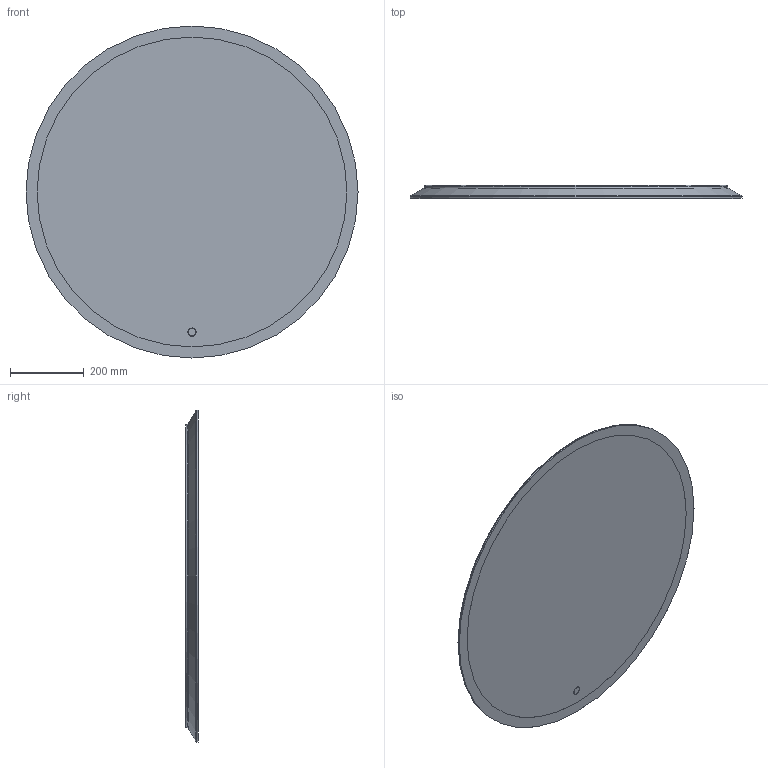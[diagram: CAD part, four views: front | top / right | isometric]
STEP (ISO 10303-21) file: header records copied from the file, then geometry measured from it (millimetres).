
FILE_DESCRIPTION(/* description */ (''),/* implementation_level */ '2;1');
FILE_NAME(/* name */ 'C:\Planerdaten\Export PLA\502.799.00.1\stp\502799.stp',/* time_stamp */ '2022-12-02T15:08:14+01:00',/* author */ ('JANAN'),/* organization */ (''),/* preprocessor_version */ 'ST-DEVELOPER v18.1',/* originating_system */ 'Autodesk Inventor 2021',/* authorisation */ '');
FILE_SCHEMA (('AUTOMOTIVE_DESIGN { 1 0 10303 214 3 1 1 }'));
Length unit declared in the file: millimetre
Products named in the file (1): tmpDA6D.tmp
Bounding box: 900 x 35.1 x 900 mm (x, y, z)
Volume: 20362828.3 mm3; surface area: 2748906.7 mm2
Topology: 4 solids, 4 shells, 25 faces, 55 edges, 41 vertices
Faces by surface type: plane 11, cylinder 10, torus 3, cone 1
Full cylindrical faces by diameter (mm): 8 x3, 20 x1, 23 x1, 822 x1, 840 x1, 898 x1, 900 x2
Entity records: 826 total; most frequent: DIRECTION 151, CARTESIAN_POINT 122, ORIENTED_EDGE 110, AXIS2_PLACEMENT_3D 70, EDGE_CURVE 55, CIRCLE 44, VERTEX_POINT 41, EDGE_LOOP 32
